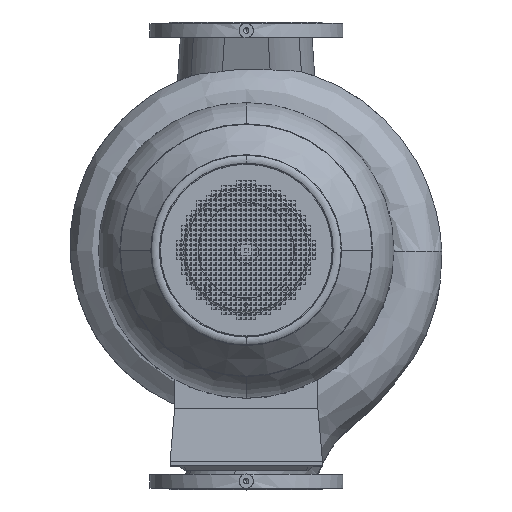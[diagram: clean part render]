
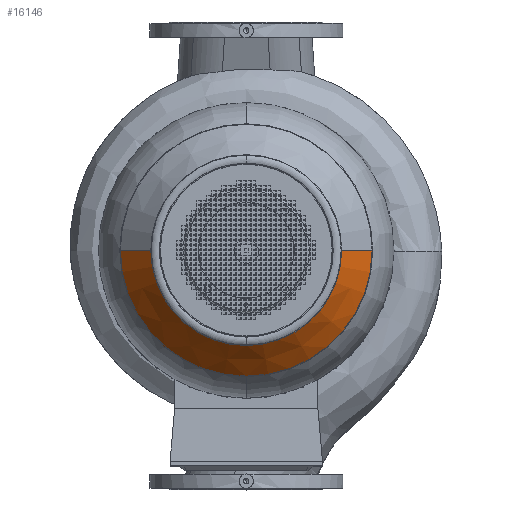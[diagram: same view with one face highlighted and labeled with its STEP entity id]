
A CAD part, top view. The second image highlights one B-rep face of the part: STEP entity #16146.
In plain terms, the highlighted conical face has half-angle 40.519 degrees and reference radius 232.485 mm.
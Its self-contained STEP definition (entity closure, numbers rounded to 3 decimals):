
#16146=ADVANCED_FACE('',(#35871),#35872,.T.);
#35871=FACE_OUTER_BOUND('',#62807,.T.);
#35872=CONICAL_SURFACE('',#62808,232.485,0.707);
#62807=EDGE_LOOP('',(#111658,#111659,#111660,#111661,#111662,#111663));
#62808=AXIS2_PLACEMENT_3D('',#111664,#111665,#111666);
#111658=ORIENTED_EDGE('',*,*,#118158,.T.);
#111659=ORIENTED_EDGE('',*,*,#118152,.F.);
#111660=ORIENTED_EDGE('',*,*,#125167,.F.);
#111661=ORIENTED_EDGE('',*,*,#118161,.T.);
#111662=ORIENTED_EDGE('',*,*,#125165,.T.);
#111663=ORIENTED_EDGE('',*,*,#118168,.T.);
#111664=CARTESIAN_POINT('',(316.655,0.0,0.0));
#111665=DIRECTION('',(-1.0,-0.0,-0.0));
#111666=DIRECTION('',(0.0,1.0,0.0));
#118152=EDGE_CURVE('',#130825,#130827,#130828,.T.);
#118158=EDGE_CURVE('',#130836,#130827,#130837,.T.);
#118161=EDGE_CURVE('',#130842,#130840,#130843,.T.);
#118168=EDGE_CURVE('',#130847,#130836,#130854,.T.);
#125165=EDGE_CURVE('',#130840,#130847,#140204,.T.);
#125167=EDGE_CURVE('',#130842,#130825,#140206,.T.);
#130825=VERTEX_POINT('',#149193);
#130827=VERTEX_POINT('',#149195);
#130828=CIRCLE('',#149196,200.0);
#130836=VERTEX_POINT('',#149204);
#130837=LINE('',#149205,#149206);
#130840=VERTEX_POINT('',#149209);
#130842=VERTEX_POINT('',#149211);
#130843=LINE('',#149212,#149213);
#130847=VERTEX_POINT('',#149217);
#130854=CIRCLE('',#149224,264.969);
#140204=CIRCLE('',#163566,264.969);
#140206=CIRCLE('',#163568,200.0);
#149193=CARTESIAN_POINT('',(354.665,0.,-200.0));
#149195=CARTESIAN_POINT('',(354.665,200.0,0.0));
#149196=AXIS2_PLACEMENT_3D('',#168671,#168672,#168673);
#149204=CARTESIAN_POINT('',(278.645,264.969,0.0));
#149205=CARTESIAN_POINT('',(316.655,232.485,0.));
#149206=VECTOR('',#168686,1.0);
#149209=CARTESIAN_POINT('',(278.645,-264.969,0.));
#149211=CARTESIAN_POINT('',(354.665,-200.0,0.));
#149212=CARTESIAN_POINT('',(316.655,-232.485,0.));
#149213=VECTOR('',#168693,1.0);
#149217=CARTESIAN_POINT('',(278.645,0.,-264.969));
#149224=AXIS2_PLACEMENT_3D('',#168709,#168710,#168711);
#163566=AXIS2_PLACEMENT_3D('',#173403,#173404,#173405);
#163568=AXIS2_PLACEMENT_3D('',#173406,#173407,#173408);
#168671=CARTESIAN_POINT('',(354.665,0.0,0.0));
#168672=DIRECTION('',(1.0,0.0,0.0));
#168673=DIRECTION('',(0.0,1.0,0.0));
#168686=DIRECTION('',(0.76,-0.65,0.));
#168693=DIRECTION('',(-0.76,-0.65,0.));
#168709=CARTESIAN_POINT('',(278.645,0.0,0.0));
#168710=DIRECTION('',(1.0,0.0,0.0));
#168711=DIRECTION('',(0.0,1.0,0.0));
#173403=CARTESIAN_POINT('',(278.645,0.0,0.0));
#173404=DIRECTION('',(1.0,0.0,0.0));
#173405=DIRECTION('',(0.0,1.0,0.0));
#173406=CARTESIAN_POINT('',(354.665,0.0,0.0));
#173407=DIRECTION('',(1.0,0.0,0.0));
#173408=DIRECTION('',(0.0,1.0,0.0));
